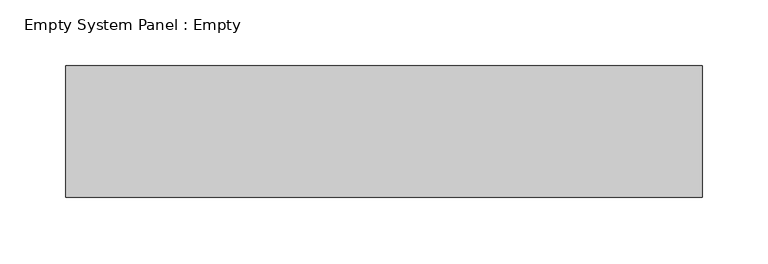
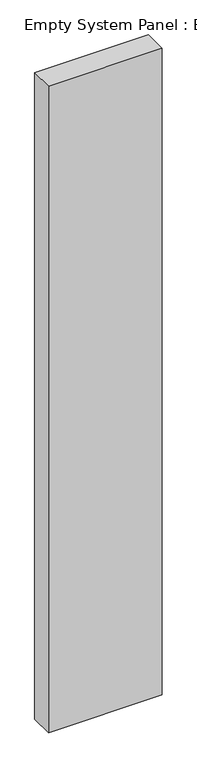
"""IFC4 building model written with IfcOpenShell, lengths in millimetres: plate geometry, Empty System Panel : Empty."""

from ifc_helpers import new_model, si_unit, origin, origin_with_axes, place, context, project, spatial, polyline, outline, extrude, source, transform, mapped, element, save


def empty_system_panel_empty_30be502d(model_context):
    return source(origin(), model_context, "Body", "SweptSolid", [
        extrude(outline(polyline([(241.7391306, -50.0), (-241.7391306, -50.0), (-241.7391306, 50.0), (241.7391306, 50.0), (241.7391306, -50.0)])), origin_with_axes(), (0.0, 0.0, 1.0), 2903.2384287),
    ])


if __name__ == "__main__":
    model = new_model("IFC4")
    model_context = context("Model", 3, world=origin())
    ifc_project = project(units=[si_unit("LENGTHUNIT", "METRE", prefix="MILLI")], contexts=[model_context])
    site = spatial("IfcSite", under=ifc_project)
    building = spatial("IfcBuilding", under=site)
    placement = place(None, origin())
    empty_system_panel_empty_shape = empty_system_panel_empty_30be502d(model_context)
    element("IfcPlate", 1, ObjectType="Empty System Panel : Empty", at=placement, inside=building, context=model_context, shape_type="MappedRepresentation", body=[
        mapped(empty_system_panel_empty_shape, transform((0.0, 0.0, 0.0), x_axis=(1.0, 0.0, 0.0), y_axis=(0.0, 1.0, 0.0), z_axis=(0.0, 0.0, 1.0))),
    ])
    save(model, "model.ifc")
